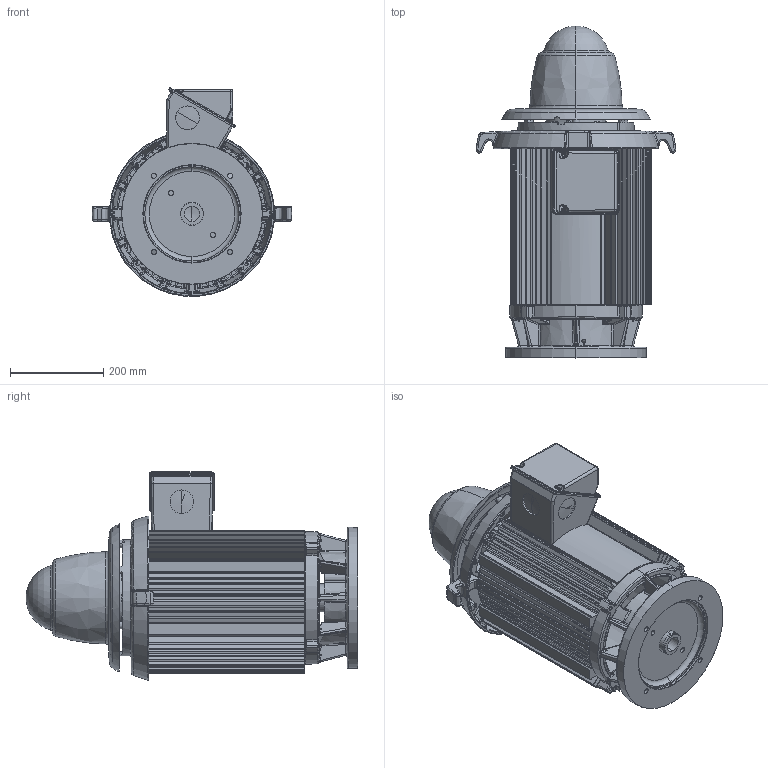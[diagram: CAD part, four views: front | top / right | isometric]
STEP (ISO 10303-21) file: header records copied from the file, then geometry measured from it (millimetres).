
FILE_DESCRIPTION((''),'2;1');
FILE_NAME('280TPA_AUSI_13625_12BD_ASM','2015-07-17T',('NMC2342'),('Nidec Motor Corporation'),'PRO/ENGINEER BY PARAMETRIC TECHNOLOGY CORPORATION, 2013150','PRO/ENGINEER BY PARAMETRIC TECHNOLOGY CORPORATION, 2013150','');
FILE_SCHEMA(('CONFIG_CONTROL_DESIGN'));
Length unit declared in the file: inch
Products named in the file (9): 0380258_AF0; 1001048; 0396184; 0116910; SHAFT; 0396188-CAP; 0364282-OBB; 0364292; 280TPA_AUSI_13625_12BD_ASM
Assembly tree (8 placements, depth 2):
  280TPA_AUSI_13625_12BD_ASM
    0380258_AF0
    1001048
    0396184
    0116910
    SHAFT
    0396188-CAP
    0364282-OBB
    0364292
Bounding box: 428.26 x 712.67 x 447.43 mm (x, y, z)
Volume: 7817666.6 mm3; surface area: 2627087.4 mm2
Topology: 10 solids, 10 shells, 3201 faces, 7730 edges, 4505 vertices
Faces by surface type: bspline 1059, cylinder 791, plane 610, torus 348, cone 273, sphere 118, extrusion 2
Entity records: 139868 total; most frequent: CARTESIAN_POINT 73847, ORIENTED_EDGE 15350, DIRECTION 11766, EDGE_CURVE 7675, AXIS2_PLACEMENT_3D 4930, VERTEX_POINT 4505, EDGE_LOOP 3328, FACE_OUTER_BOUND 3201
